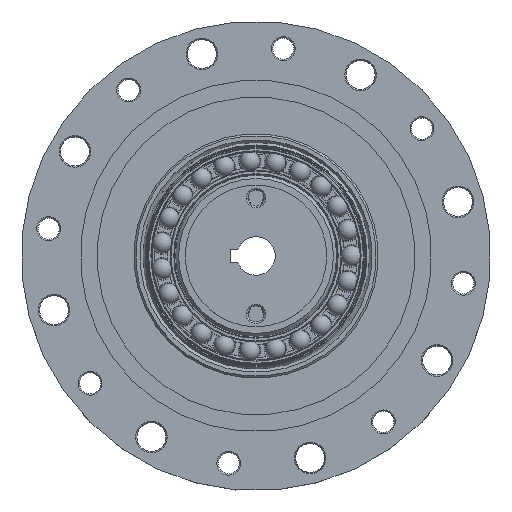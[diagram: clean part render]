
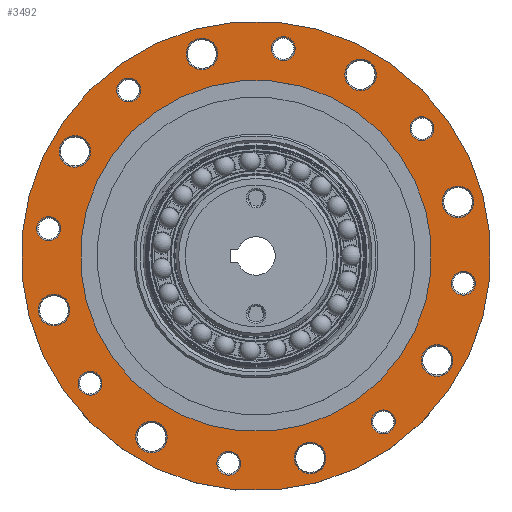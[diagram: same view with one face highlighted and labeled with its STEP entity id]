
A CAD part, top view. The second image highlights one B-rep face of the part: STEP entity #3492.
In plain terms, the highlighted planar face has unit normal (0, 0, 1) as drawn and (1, 0, 0) by its records, which use the part's own axes.
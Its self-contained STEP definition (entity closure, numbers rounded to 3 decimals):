
#2665=PLANE('',#10102);
#2814=FACE_BOUND('',#4470,.T.);
#2815=FACE_BOUND('',#4471,.T.);
#2816=FACE_BOUND('',#4472,.T.);
#2817=FACE_BOUND('',#4473,.T.);
#2818=FACE_BOUND('',#4474,.T.);
#2819=FACE_BOUND('',#4475,.T.);
#2820=FACE_BOUND('',#4476,.T.);
#2821=FACE_BOUND('',#4477,.T.);
#2822=FACE_BOUND('',#4478,.T.);
#2823=FACE_BOUND('',#4479,.T.);
#2824=FACE_BOUND('',#4480,.T.);
#2825=FACE_BOUND('',#4481,.T.);
#2826=FACE_BOUND('',#4482,.T.);
#2827=FACE_BOUND('',#4483,.T.);
#2828=FACE_BOUND('',#4484,.T.);
#2829=FACE_BOUND('',#4485,.T.);
#2830=FACE_BOUND('',#4486,.T.);
#2831=FACE_BOUND('',#4487,.T.);
#3492=ADVANCED_FACE('F18',(#2814,#2815,#2816,#2817,#2818,#2819,#2820,#2821,
#2822,#2823,#2824,#2825,#2826,#2827,#2828,#2829,#2830,#2831),#2665,.T.);
#4470=EDGE_LOOP('',(#5668));
#4471=EDGE_LOOP('',(#5669));
#4472=EDGE_LOOP('',(#5670));
#4473=EDGE_LOOP('',(#5671));
#4474=EDGE_LOOP('',(#5672));
#4475=EDGE_LOOP('',(#5673));
#4476=EDGE_LOOP('',(#5674));
#4477=EDGE_LOOP('',(#5675));
#4478=EDGE_LOOP('',(#5676));
#4479=EDGE_LOOP('',(#5677));
#4480=EDGE_LOOP('',(#5678));
#4481=EDGE_LOOP('',(#5679));
#4482=EDGE_LOOP('',(#5680));
#4483=EDGE_LOOP('',(#5681));
#4484=EDGE_LOOP('',(#5682));
#4485=EDGE_LOOP('',(#5683));
#4486=EDGE_LOOP('',(#5684));
#4487=EDGE_LOOP('',(#5685));
#5668=ORIENTED_EDGE('',*,*,#8212,.T.);
#5669=ORIENTED_EDGE('',*,*,#8209,.F.);
#5670=ORIENTED_EDGE('',*,*,#8273,.F.);
#5671=ORIENTED_EDGE('',*,*,#8226,.F.);
#5672=ORIENTED_EDGE('',*,*,#8233,.F.);
#5673=ORIENTED_EDGE('',*,*,#8240,.F.);
#5674=ORIENTED_EDGE('',*,*,#8247,.F.);
#5675=ORIENTED_EDGE('',*,*,#8254,.F.);
#5676=ORIENTED_EDGE('',*,*,#8261,.F.);
#5677=ORIENTED_EDGE('',*,*,#8268,.F.);
#5678=ORIENTED_EDGE('',*,*,#8288,.F.);
#5679=ORIENTED_EDGE('',*,*,#8297,.F.);
#5680=ORIENTED_EDGE('',*,*,#8306,.F.);
#5681=ORIENTED_EDGE('',*,*,#8315,.F.);
#5682=ORIENTED_EDGE('',*,*,#8324,.F.);
#5683=ORIENTED_EDGE('',*,*,#8333,.F.);
#5684=ORIENTED_EDGE('',*,*,#8342,.F.);
#5685=ORIENTED_EDGE('',*,*,#8347,.F.);
#7389=VERTEX_POINT('',#14153);
#7390=VERTEX_POINT('',#14157);
#7399=VERTEX_POINT('',#14186);
#7403=VERTEX_POINT('',#14200);
#7407=VERTEX_POINT('',#14214);
#7411=VERTEX_POINT('',#14228);
#7415=VERTEX_POINT('',#14242);
#7419=VERTEX_POINT('',#14256);
#7423=VERTEX_POINT('',#14270);
#7426=VERTEX_POINT('',#14283);
#7434=VERTEX_POINT('',#14311);
#7439=VERTEX_POINT('',#14329);
#7444=VERTEX_POINT('',#14347);
#7449=VERTEX_POINT('',#14365);
#7454=VERTEX_POINT('',#14383);
#7459=VERTEX_POINT('',#14401);
#7464=VERTEX_POINT('',#14419);
#7467=VERTEX_POINT('',#14431);
#8209=EDGE_CURVE('',#7389,#7389,#9227,.T.);
#8212=EDGE_CURVE('',#7390,#7390,#9229,.T.);
#8226=EDGE_CURVE('',#7399,#7399,#9237,.T.);
#8233=EDGE_CURVE('',#7403,#7403,#9241,.T.);
#8240=EDGE_CURVE('',#7407,#7407,#9245,.T.);
#8247=EDGE_CURVE('',#7411,#7411,#9249,.T.);
#8254=EDGE_CURVE('',#7415,#7415,#9253,.T.);
#8261=EDGE_CURVE('',#7419,#7419,#9257,.T.);
#8268=EDGE_CURVE('',#7423,#7423,#9261,.T.);
#8273=EDGE_CURVE('',#7426,#7426,#9264,.T.);
#8288=EDGE_CURVE('',#7434,#7434,#9272,.T.);
#8297=EDGE_CURVE('',#7439,#7439,#9277,.T.);
#8306=EDGE_CURVE('',#7444,#7444,#9282,.T.);
#8315=EDGE_CURVE('',#7449,#7449,#9287,.T.);
#8324=EDGE_CURVE('',#7454,#7454,#9292,.T.);
#8333=EDGE_CURVE('',#7459,#7459,#9297,.T.);
#8342=EDGE_CURVE('',#7464,#7464,#9302,.T.);
#8347=EDGE_CURVE('',#7467,#7467,#9305,.T.);
#9227=CIRCLE('',#9962,27.3);
#9229=CIRCLE('',#9965,36.5);
#9237=CIRCLE('',#9979,2.45);
#9241=CIRCLE('',#9986,2.45);
#9245=CIRCLE('',#9993,2.45);
#9249=CIRCLE('',#10000,2.45);
#9253=CIRCLE('',#10007,2.45);
#9257=CIRCLE('',#10014,2.45);
#9261=CIRCLE('',#10021,2.45);
#9264=CIRCLE('',#10027,2.45);
#9272=CIRCLE('',#10041,1.85);
#9277=CIRCLE('',#10050,1.85);
#9282=CIRCLE('',#10059,1.85);
#9287=CIRCLE('',#10068,1.85);
#9292=CIRCLE('',#10077,1.85);
#9297=CIRCLE('',#10086,1.85);
#9302=CIRCLE('',#10095,1.85);
#9305=CIRCLE('',#10101,1.85);
#9962=AXIS2_PLACEMENT_3D('',#14154,#11400,#11401);
#9965=AXIS2_PLACEMENT_3D('',#14160,#11407,#11408);
#9979=AXIS2_PLACEMENT_3D('',#14188,#11441,#11442);
#9986=AXIS2_PLACEMENT_3D('',#14202,#11458,#11459);
#9993=AXIS2_PLACEMENT_3D('',#14216,#11475,#11476);
#10000=AXIS2_PLACEMENT_3D('',#14230,#11492,#11493);
#10007=AXIS2_PLACEMENT_3D('',#14244,#11509,#11510);
#10014=AXIS2_PLACEMENT_3D('',#14258,#11526,#11527);
#10021=AXIS2_PLACEMENT_3D('',#14272,#11543,#11544);
#10027=AXIS2_PLACEMENT_3D('',#14282,#11557,#11558);
#10041=AXIS2_PLACEMENT_3D('',#14312,#11592,#11593);
#10050=AXIS2_PLACEMENT_3D('',#14330,#11614,#11615);
#10059=AXIS2_PLACEMENT_3D('',#14348,#11636,#11637);
#10068=AXIS2_PLACEMENT_3D('',#14366,#11658,#11659);
#10077=AXIS2_PLACEMENT_3D('',#14384,#11680,#11681);
#10086=AXIS2_PLACEMENT_3D('',#14402,#11702,#11703);
#10095=AXIS2_PLACEMENT_3D('',#14420,#11724,#11725);
#10101=AXIS2_PLACEMENT_3D('',#14430,#11738,#11739);
#10102=AXIS2_PLACEMENT_3D('',#14432,#11740,#11741);
#11400=DIRECTION('',(1.,0.,0.));
#11401=DIRECTION('',(0.,1.,0.));
#11407=DIRECTION('',(1.,0.,0.));
#11408=DIRECTION('',(0.,1.,0.));
#11441=DIRECTION('',(1.,0.,0.));
#11442=DIRECTION('',(0.,-0.707,-0.707));
#11458=DIRECTION('',(1.,0.,0.));
#11459=DIRECTION('',(0.,-1.,0.));
#11475=DIRECTION('',(1.,0.,0.));
#11476=DIRECTION('',(0.,-0.707,0.707));
#11492=DIRECTION('',(1.,0.,0.));
#11493=DIRECTION('',(0.,0.,1.));
#11509=DIRECTION('',(1.,0.,0.));
#11510=DIRECTION('',(0.,0.707,0.707));
#11526=DIRECTION('',(1.,0.,0.));
#11527=DIRECTION('',(0.,1.,0.));
#11543=DIRECTION('',(1.,0.,0.));
#11544=DIRECTION('',(0.,0.707,-0.707));
#11557=DIRECTION('',(1.,0.,0.));
#11558=DIRECTION('',(0.,0.,-1.));
#11592=DIRECTION('',(1.,0.,0.));
#11593=DIRECTION('',(0.,0.,-1.));
#11614=DIRECTION('',(1.,0.,0.));
#11615=DIRECTION('',(0.,-0.707,-0.707));
#11636=DIRECTION('',(1.,0.,0.));
#11637=DIRECTION('',(0.,-1.,0.));
#11658=DIRECTION('',(1.,0.,0.));
#11659=DIRECTION('',(0.,-0.707,0.707));
#11680=DIRECTION('',(1.,0.,0.));
#11681=DIRECTION('',(0.,0.,1.));
#11702=DIRECTION('',(1.,0.,0.));
#11703=DIRECTION('',(0.,0.707,0.707));
#11724=DIRECTION('',(1.,0.,0.));
#11725=DIRECTION('',(0.,1.,0.));
#11738=DIRECTION('',(1.,0.,0.));
#11739=DIRECTION('',(0.,0.707,-0.707));
#11740=DIRECTION('',(1.,0.,0.));
#11741=DIRECTION('',(0.,1.,0.));
#14153=CARTESIAN_POINT('',(19.8,27.3,0.));
#14154=CARTESIAN_POINT('',(19.8,0.,0.));
#14157=CARTESIAN_POINT('',(19.8,36.5,0.));
#14160=CARTESIAN_POINT('',(19.8,0.,0.));
#14186=CARTESIAN_POINT('',(19.8,21.249,-24.713));
#14188=CARTESIAN_POINT('',(19.8,22.981,-22.981));
#14200=CARTESIAN_POINT('',(19.8,-2.45,-32.5));
#14202=CARTESIAN_POINT('',(19.8,0.,-32.5));
#14214=CARTESIAN_POINT('',(19.8,-24.713,-21.249));
#14216=CARTESIAN_POINT('',(19.8,-22.981,-22.981));
#14228=CARTESIAN_POINT('',(19.8,-32.5,2.45));
#14230=CARTESIAN_POINT('',(19.8,-32.5,0.));
#14242=CARTESIAN_POINT('',(19.8,-21.249,24.713));
#14244=CARTESIAN_POINT('',(19.8,-22.981,22.981));
#14256=CARTESIAN_POINT('',(19.8,2.45,32.5));
#14258=CARTESIAN_POINT('',(19.8,0.,32.5));
#14270=CARTESIAN_POINT('',(19.8,24.713,21.249));
#14272=CARTESIAN_POINT('',(19.8,22.981,22.981));
#14282=CARTESIAN_POINT('',(19.8,32.5,0.));
#14283=CARTESIAN_POINT('',(19.8,32.5,-2.45));
#14311=CARTESIAN_POINT('',(19.8,12.437,28.176));
#14312=CARTESIAN_POINT('',(19.8,12.437,30.026));
#14329=CARTESIAN_POINT('',(19.8,28.718,11.129));
#14330=CARTESIAN_POINT('',(19.8,30.026,12.437));
#14347=CARTESIAN_POINT('',(19.8,28.176,-12.437));
#14348=CARTESIAN_POINT('',(19.8,30.026,-12.437));
#14365=CARTESIAN_POINT('',(19.8,11.129,-28.718));
#14366=CARTESIAN_POINT('',(19.8,12.437,-30.026));
#14383=CARTESIAN_POINT('',(19.8,-12.437,-28.176));
#14384=CARTESIAN_POINT('',(19.8,-12.437,-30.026));
#14401=CARTESIAN_POINT('',(19.8,-28.718,-11.129));
#14402=CARTESIAN_POINT('',(19.8,-30.026,-12.437));
#14419=CARTESIAN_POINT('',(19.8,-28.176,12.437));
#14420=CARTESIAN_POINT('',(19.8,-30.026,12.437));
#14430=CARTESIAN_POINT('',(19.8,-12.437,30.026));
#14431=CARTESIAN_POINT('',(19.8,-11.129,28.718));
#14432=CARTESIAN_POINT('',(19.8,0.,0.));
